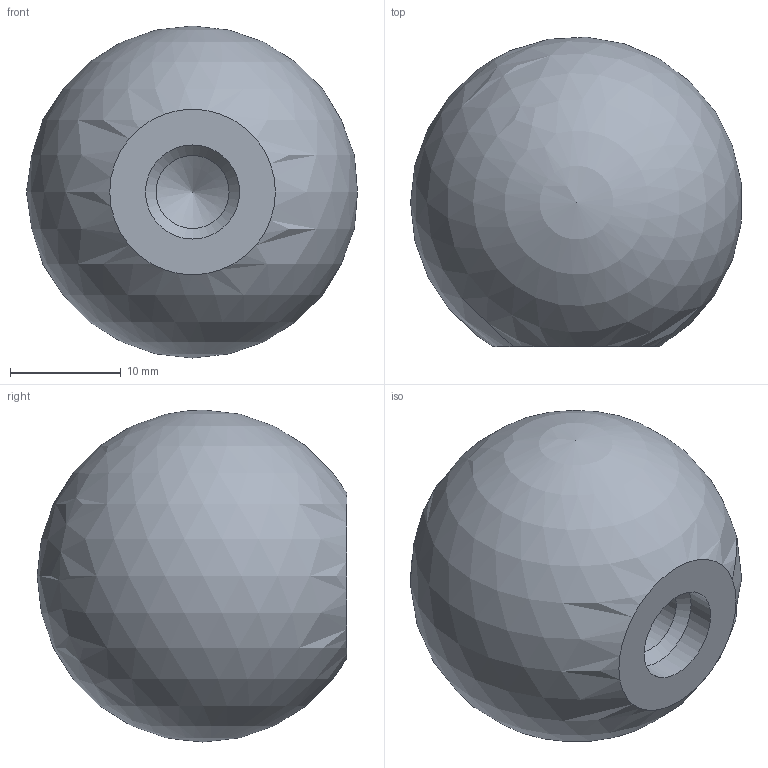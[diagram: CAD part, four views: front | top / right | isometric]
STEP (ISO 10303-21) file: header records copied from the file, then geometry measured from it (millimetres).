
FILE_DESCRIPTION (( 'STEP AP214' ), '1' );
FILE_NAME ('319-KU-30-M6-C.step', '2019-04-24T08:50:19', ( 'user' ), ( '' ), 'SwSTEP 2.0', 'SolidWorks 2019', '' );
FILE_SCHEMA (( 'AUTOMOTIVE_DESIGN' ));
Length unit declared in the file: millimetre
Products named in the file (1): 319-KU-30-M6-C
Bounding box: 29.9 x 27.98 x 30 mm (x, y, z)
Volume: 13354.7 mm3; surface area: 3136.1 mm2
Topology: 1 solids, 1 shells, 6 faces, 15 edges, 10 vertices
Faces by surface type: cone 2, cylinder 2, plane 1, sphere 1
Full cylindrical faces by diameter (mm): 6.6 x1, 8.5 x1
Entity records: 159 total; most frequent: DIRECTION 24, CARTESIAN_POINT 17, AXIS2_PLACEMENT_3D 12, ORIENTED_EDGE 10, EDGE_LOOP 10, FACE_OUTER_BOUND 8, ADVANCED_FACE 6, EDGE_CURVE 5
